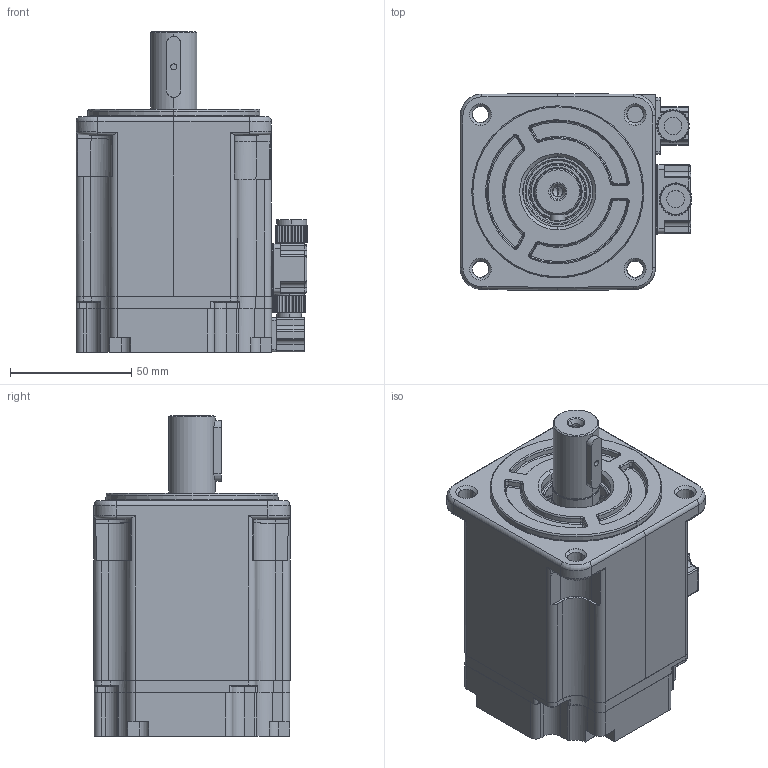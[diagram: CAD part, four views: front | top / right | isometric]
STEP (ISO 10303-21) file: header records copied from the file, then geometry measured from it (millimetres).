
FILE_DESCRIPTION (( 'STEP AP214' ), '1' );
FILE_NAME ('RSDA-H08J2430A.STEP', '2023-10-25T03:03:47', ( '' ), ( '' ), 'SwSTEP 2.0', 'SolidWorks 2020', '' );
FILE_SCHEMA (( 'AUTOMOTIVE_DESIGN' ));
Length unit declared in the file: millimetre
Products named in the file (13): 锐特单圈磁编板; 60陔晤鎢ん盓殤; 悝蚋80-750W珨极儂褲; 80喘濎煦燭粣; RSDA-H08J2430A; 80 饜珨极儂褲綴裔; 蹟唅諉芛23x14x13.5xM12; 80綴欶H18; 錨璃16; 蹟唅諉芛28x20x13.5xM12; 固卡多圈磁铁; 80齿轭分离定子组件; 80喘濎煦燭隅赽
Assembly tree (12 placements, depth 3):
  RSDA-H08J2430A
    80齿轭分离定子组件
      悝蚋80-750W珨极儂褲
      80喘濎煦燭隅赽
    锐特单圈磁编板
    60陔晤鎢ん盓殤
    80綴欶H18
    蹟唅諉芛23x14x13.5xM12
    蹟唅諉芛28x20x13.5xM12
    80喘濎煦燭粣
    80 饜珨极儂褲綴裔
    錨璃16
    固卡多圈磁铁
Bounding box: 95.48 x 80.75 x 132 mm (x, y, z)
Volume: 330991.6 mm3; surface area: 177685.1 mm2
Topology: 24 solids, 24 shells, 1519 faces, 3905 edges, 2447 vertices
Faces by surface type: cylinder 704, plane 439, bspline 170, cone 123, torus 83
Entity records: 51266 total; most frequent: CARTESIAN_POINT 13791, DIRECTION 7923, ORIENTED_EDGE 7710, EDGE_CURVE 3855, AXIS2_PLACEMENT_3D 3155, VERTEX_POINT 2447, CIRCLE 1790, EDGE_LOOP 1688
